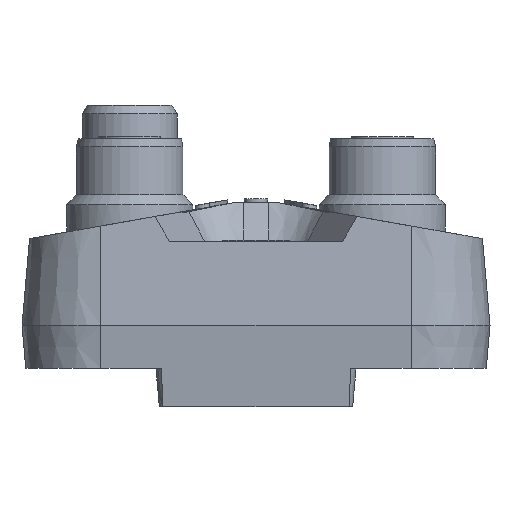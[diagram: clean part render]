
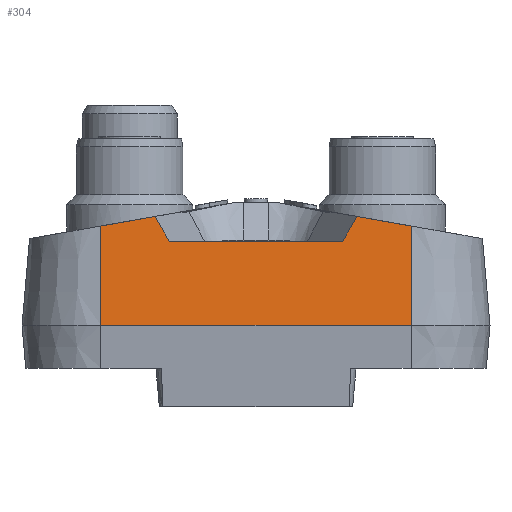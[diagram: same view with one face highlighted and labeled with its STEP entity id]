
A CAD part, front view. The second image highlights one B-rep face of the part: STEP entity #304.
In plain terms, the highlighted planar face has unit normal (0, -0.996, 0.087).
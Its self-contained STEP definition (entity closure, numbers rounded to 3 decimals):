
#304 = ADVANCED_FACE( '', ( #881 ), #882, .T. );
#881 = FACE_OUTER_BOUND( '', #1484, .T. );
#882 = PLANE( '', #1485 );
#1484 = EDGE_LOOP( '', ( #3174, #3175, #3176, #3177, #3178, #3179, #3180, #3181 ) );
#1485 = AXIS2_PLACEMENT_3D( '', #3182, #3183, #3184 );
#3174 = ORIENTED_EDGE( '', *, *, #3597, .F. );
#3175 = ORIENTED_EDGE( '', *, *, #3869, .F. );
#3176 = ORIENTED_EDGE( '', *, *, #3868, .T. );
#3177 = ORIENTED_EDGE( '', *, *, #3387, .T. );
#3178 = ORIENTED_EDGE( '', *, *, #3866, .F. );
#3179 = ORIENTED_EDGE( '', *, *, #3421, .F. );
#3180 = ORIENTED_EDGE( '', *, *, #3602, .F. );
#3181 = ORIENTED_EDGE( '', *, *, #3591, .F. );
#3182 = CARTESIAN_POINT( '', ( -19.65, 0., 0. ) );
#3183 = DIRECTION( '', ( 0., -0.996, 0.087 ) );
#3184 = DIRECTION( '', ( 0., -0.087, -0.996 ) );
#3387 = EDGE_CURVE( '', #3936, #3943, #3945, .T. );
#3421 = EDGE_CURVE( '', #4006, #4008, #4009, .F. );
#3591 = EDGE_CURVE( '', #4326, #4327, #4328, .F. );
#3597 = EDGE_CURVE( '', #4338, #4326, #4339, .F. );
#3602 = EDGE_CURVE( '', #4327, #4006, #4347, .F. );
#3866 = EDGE_CURVE( '', #4008, #3943, #4763, .T. );
#3868 = EDGE_CURVE( '', #4764, #3936, #4766, .T. );
#3869 = EDGE_CURVE( '', #4764, #4338, #4767, .F. );
#3936 = VERTEX_POINT( '', #4861 );
#3943 = VERTEX_POINT( '', #4876 );
#3945 = LINE( '', #4879, #4880 );
#4006 = VERTEX_POINT( '', #4967 );
#4008 = VERTEX_POINT( '', #4970 );
#4009 = LINE( '', #4971, #4972 );
#4326 = VERTEX_POINT( '', #5376 );
#4327 = VERTEX_POINT( '', #5377 );
#4328 = LINE( '', #5378, #5379 );
#4338 = VERTEX_POINT( '', #5392 );
#4339 = LINE( '', #5393, #5394 );
#4347 = LINE( '', #5406, #5407 );
#4763 = LINE( '', #5946, #5947 );
#4764 = VERTEX_POINT( '', #5948 );
#4766 = LINE( '', #5950, #5951 );
#4767 = LINE( '', #5952, #5953 );
#4861 = CARTESIAN_POINT( '', ( -19.65, 0., 0. ) );
#4876 = CARTESIAN_POINT( '', ( 19.65, 0., 0. ) );
#4879 = CARTESIAN_POINT( '', ( -19.65, 0., 0. ) );
#4880 = VECTOR( '', #6027, 1000. );
#4967 = CARTESIAN_POINT( '', ( 12.816, 1.205, 13.775 ) );
#4970 = CARTESIAN_POINT( '', ( 19.65, 1.1, 12.57 ) );
#4971 = CARTESIAN_POINT( '', ( -16.291, 1.654, 18.907 ) );
#4972 = VECTOR( '', #6091, 1000. );
#5376 = CARTESIAN_POINT( '', ( -10.98, 0.932, 10.65 ) );
#5377 = CARTESIAN_POINT( '', ( 10.98, 0.932, 10.65 ) );
#5378 = CARTESIAN_POINT( '', ( -19.65, 0.932, 10.65 ) );
#5379 = VECTOR( '', #6425, 1000. );
#5392 = CARTESIAN_POINT( '', ( -12.816, 1.205, 13.775 ) );
#5393 = CARTESIAN_POINT( '', ( -8.531, 0.567, 6.481 ) );
#5394 = VECTOR( '', #6435, 1000. );
#5406 = CARTESIAN_POINT( '', ( -1.492, -0.926, -10.584 ) );
#5407 = VECTOR( '', #6440, 1000. );
#5946 = CARTESIAN_POINT( '', ( 19.65, 0., 0. ) );
#5947 = VECTOR( '', #6984, 1000. );
#5948 = CARTESIAN_POINT( '', ( -19.65, 1.1, 12.57 ) );
#5950 = CARTESIAN_POINT( '', ( -19.65, 0., 0. ) );
#5951 = VECTOR( '', #6988, 1000. );
#5952 = CARTESIAN_POINT( '', ( -21.816, 1.066, 12.188 ) );
#5953 = VECTOR( '', #6989, 1000. );
#6027 = DIRECTION( '', ( 1., 0., 0. ) );
#6091 = DIRECTION( '', ( -0.985, 0.015, 0.174 ) );
#6425 = DIRECTION( '', ( -1., 0., 0. ) );
#6435 = DIRECTION( '', ( -0.505, 0.075, 0.86 ) );
#6440 = DIRECTION( '', ( -0.505, -0.075, -0.86 ) );
#6984 = DIRECTION( '', ( 0., -0.087, -0.996 ) );
#6988 = DIRECTION( '', ( 0., -0.087, -0.996 ) );
#6989 = DIRECTION( '', ( -0.985, -0.015, -0.174 ) );
